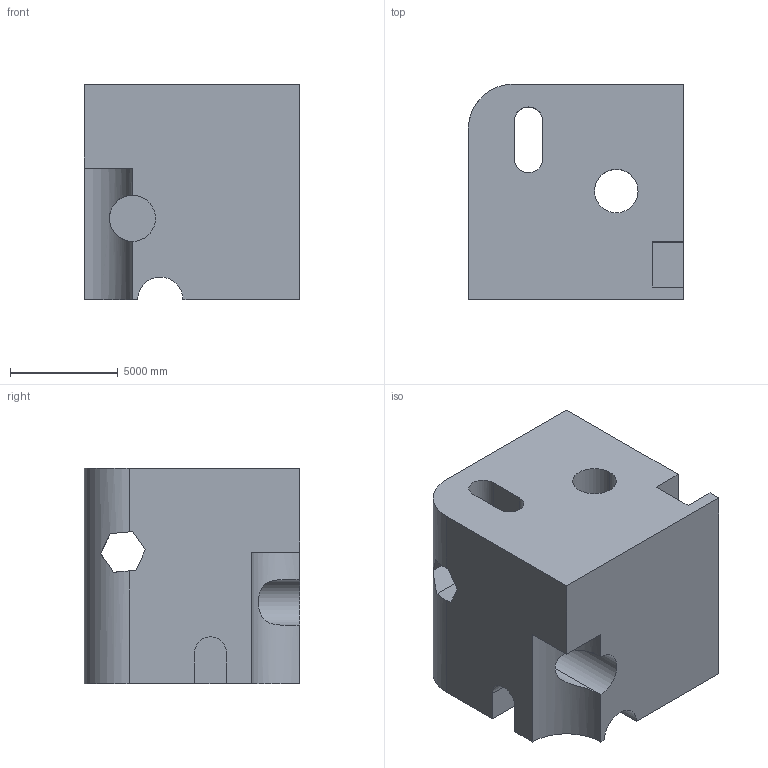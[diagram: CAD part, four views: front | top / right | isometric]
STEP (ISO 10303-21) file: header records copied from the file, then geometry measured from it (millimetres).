
FILE_DESCRIPTION (( 'STEP AP203' ), '1' );
FILE_NAME ('1995.STEP', '2022-08-23T10:24:03', ( 'user' ), ( '' ), 'SwSTEP 2.0', 'SolidWorks 2021', '' );
FILE_SCHEMA (( 'CONFIG_CONTROL_DESIGN' ));
Length unit declared in the file: centimetre
Products named in the file (1): 1995
Bounding box: 10000 x 10000 x 10000 mm (x, y, z)
Volume: 822527503813.9 mm3; surface area: 799665381.5 mm2
Topology: 1 solids, 1 shells, 44 faces, 138 edges, 92 vertices
Faces by surface type: plane 32, cylinder 12
Entity records: 2000 total; most frequent: CARTESIAN_POINT 699, ORIENTED_EDGE 276, DIRECTION 234, EDGE_CURVE 138, VECTOR 102, LINE 102, VERTEX_POINT 92, AXIS2_PLACEMENT_3D 66
